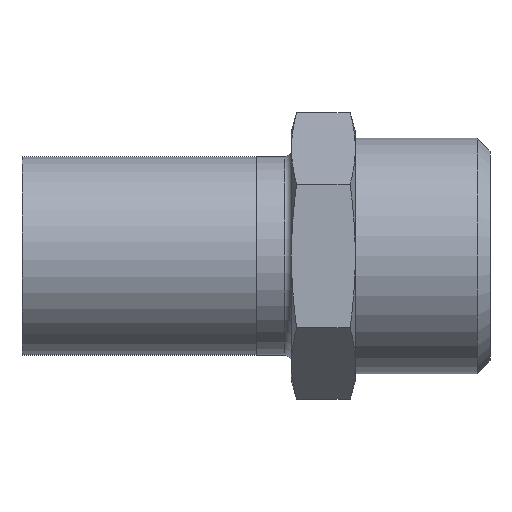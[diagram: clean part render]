
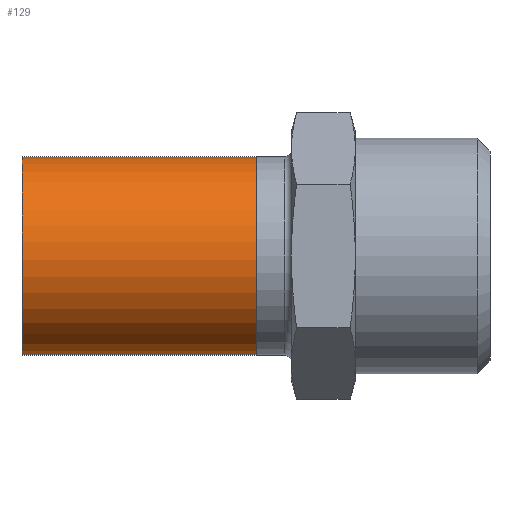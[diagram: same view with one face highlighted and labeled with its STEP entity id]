
A CAD part, front view. The second image highlights one B-rep face of the part: STEP entity #129.
In plain terms, the highlighted cylindrical face has radius 14 mm (diameter 28 mm), a partial arc.
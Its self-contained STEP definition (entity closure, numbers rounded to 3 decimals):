
#23 = LINE ( 'NONE', #93, #214 ) ;
#70 = EDGE_LOOP ( 'NONE', ( #269, #723, #278, #873 ) ) ;
#93 = CARTESIAN_POINT ( 'NONE',  ( 14., 0., 33. ) ) ;
#119 = CARTESIAN_POINT ( 'NONE',  ( 14., 0., 33. ) ) ;
#124 = EDGE_CURVE ( 'NONE', #996, #1509, #23, .T. ) ;
#129 = ADVANCED_FACE ( 'NONE', ( #174 ), #1411, .T. ) ;
#159 = VECTOR ( 'NONE', #362, 1000. ) ;
#168 = AXIS2_PLACEMENT_3D ( 'NONE', #945, #809, #939 ) ;
#174 = FACE_OUTER_BOUND ( 'NONE', #70, .T. ) ;
#214 = VECTOR ( 'NONE', #230, 1000. ) ;
#227 = CARTESIAN_POINT ( 'NONE',  ( -14., 0., 33. ) ) ;
#230 = DIRECTION ( 'NONE',  ( 0., 0., -1. ) ) ;
#269 = ORIENTED_EDGE ( 'NONE', *, *, #124, .F. ) ;
#278 = ORIENTED_EDGE ( 'NONE', *, *, #981, .T. ) ;
#349 = DIRECTION ( 'NONE',  ( 0., 0., 1. ) ) ;
#362 = DIRECTION ( 'NONE',  ( 0., 0., -1. ) ) ;
#395 = CARTESIAN_POINT ( 'NONE',  ( 0., 0., 33. ) ) ;
#567 = AXIS2_PLACEMENT_3D ( 'NONE', #1056, #349, #811 ) ;
#603 = AXIS2_PLACEMENT_3D ( 'NONE', #395, #1346, #735 ) ;
#606 = VERTEX_POINT ( 'NONE', #1213 ) ;
#723 = ORIENTED_EDGE ( 'NONE', *, *, #1091, .F. ) ;
#735 = DIRECTION ( 'NONE',  ( 1., 0., 0. ) ) ;
#797 = LINE ( 'NONE', #837, #159 ) ;
#809 = DIRECTION ( 'NONE',  ( 0., 0., -1. ) ) ;
#811 = DIRECTION ( 'NONE',  ( 1., 0., 0. ) ) ;
#837 = CARTESIAN_POINT ( 'NONE',  ( -14., 0., 33. ) ) ;
#873 = ORIENTED_EDGE ( 'NONE', *, *, #1404, .T. ) ;
#939 = DIRECTION ( 'NONE',  ( -1., 0., 0. ) ) ;
#945 = CARTESIAN_POINT ( 'NONE',  ( 0., 0., 33. ) ) ;
#981 = EDGE_CURVE ( 'NONE', #1022, #606, #797, .T. ) ;
#996 = VERTEX_POINT ( 'NONE', #119 ) ;
#1022 = VERTEX_POINT ( 'NONE', #227 ) ;
#1056 = CARTESIAN_POINT ( 'NONE',  ( 0., 0., 0. ) ) ;
#1085 = CIRCLE ( 'NONE', #567, 14. ) ;
#1091 = EDGE_CURVE ( 'NONE', #1022, #996, #1361, .T. ) ;
#1213 = CARTESIAN_POINT ( 'NONE',  ( -14., 0., 0. ) ) ;
#1346 = DIRECTION ( 'NONE',  ( 0., 0., 1. ) ) ;
#1361 = CIRCLE ( 'NONE', #603, 14. ) ;
#1385 = CARTESIAN_POINT ( 'NONE',  ( 14., 0., 0. ) ) ;
#1404 = EDGE_CURVE ( 'NONE', #606, #1509, #1085, .T. ) ;
#1411 = CYLINDRICAL_SURFACE ( 'NONE', #168, 14. ) ;
#1509 = VERTEX_POINT ( 'NONE', #1385 ) ;
